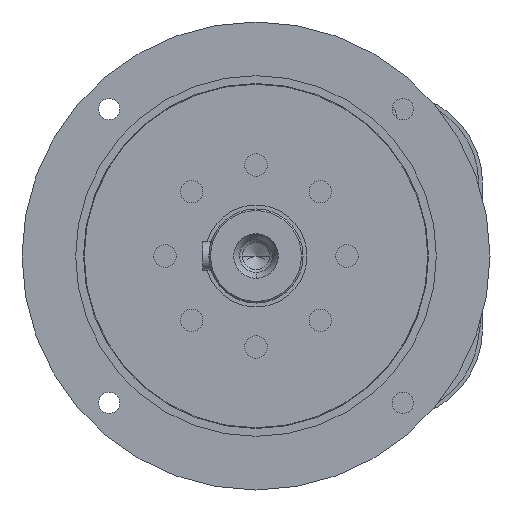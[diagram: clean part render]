
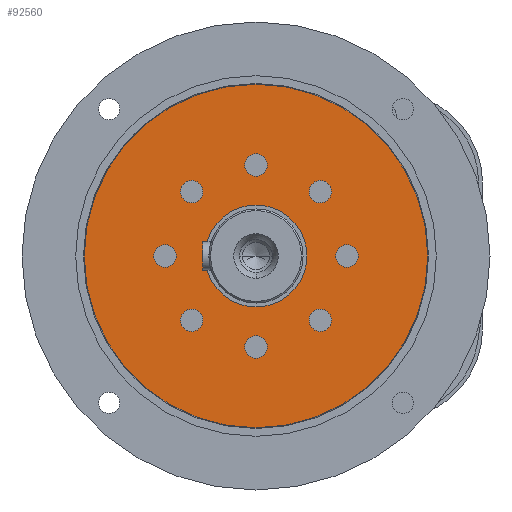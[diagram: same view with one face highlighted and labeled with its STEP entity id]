
A CAD part, left-side view. The second image highlights one B-rep face of the part: STEP entity #92560.
In plain terms, the highlighted planar face has unit normal (-1, 0, 0).
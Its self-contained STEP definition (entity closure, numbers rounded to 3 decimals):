
#91120=CARTESIAN_POINT('',(4.5,107.521,0.));
#91130=DIRECTION('',(-1.,0.,0.));
#91140=DIRECTION('',(0.,1.,0.));
#91150=AXIS2_PLACEMENT_3D('',#91120,#91130,#91140);
#91160=PLANE('',#91150);
#91170=CARTESIAN_POINT('',(4.5,0.,0.));
#91180=DIRECTION('',(-1.,0.,0.));
#91190=DIRECTION('',(0.,0.,-1.));
#91200=AXIS2_PLACEMENT_3D('',#91170,#91180,#91190);
#91210=CIRCLE('',#91200,109.555);
#91220=CARTESIAN_POINT('',(4.5,0.,-109.555));
#91230=VERTEX_POINT('',#91220);
#91240=CARTESIAN_POINT('',(4.5,0.,109.555));
#91250=VERTEX_POINT('',#91240);
#91260=EDGE_CURVE('',#91230,#91250,#91210,.T.);
#91270=ORIENTED_EDGE('',*,*,#91260,.T.);
#91280=CARTESIAN_POINT('',(4.5,109.555,0.));
#91290=VERTEX_POINT('',#91280);
#91300=EDGE_CURVE('',#91290,#91230,#91210,.T.);
#91310=ORIENTED_EDGE('',*,*,#91300,.T.);
#91320=EDGE_CURVE('',#91250,#91290,#91210,.T.);
#91330=ORIENTED_EDGE('',*,*,#91320,.T.);
#91340=EDGE_LOOP('',(#91330,#91310,#91270));
#91350=FACE_OUTER_BOUND('',#91340,.T.);
#91360=CARTESIAN_POINT('',(4.5,-41.012,-41.012));
#91370=DIRECTION('',(-1.,0.,0.));
#91380=DIRECTION('',(0.,-1.,0.));
#91390=AXIS2_PLACEMENT_3D('',#91360,#91370,#91380);
#91400=CIRCLE('',#91390,7.19);
#91410=CARTESIAN_POINT('',(4.5,-48.202,-41.012));
#91420=VERTEX_POINT('',#91410);
#91430=CARTESIAN_POINT('',(4.5,-33.822,-41.012));
#91440=VERTEX_POINT('',#91430);
#91450=EDGE_CURVE('',#91420,#91440,#91400,.T.);
#91460=ORIENTED_EDGE('',*,*,#91450,.F.);
#91470=EDGE_CURVE('',#91440,#91420,#91400,.T.);
#91480=ORIENTED_EDGE('',*,*,#91470,.F.);
#91490=EDGE_LOOP('',(#91480,#91460));
#91500=FACE_BOUND('',#91490,.T.);
#91510=CARTESIAN_POINT('',(4.5,58.,0.));
#91520=DIRECTION('',(-1.,0.,0.));
#91530=DIRECTION('',(0.,-1.,0.));
#91540=AXIS2_PLACEMENT_3D('',#91510,#91520,#91530);
#91550=CIRCLE('',#91540,7.19);
#91560=CARTESIAN_POINT('',(4.5,50.81,0.));
#91570=VERTEX_POINT('',#91560);
#91580=CARTESIAN_POINT('',(4.5,65.19,0.));
#91590=VERTEX_POINT('',#91580);
#91600=EDGE_CURVE('',#91570,#91590,#91550,.T.);
#91610=ORIENTED_EDGE('',*,*,#91600,.F.);
#91620=EDGE_CURVE('',#91590,#91570,#91550,.T.);
#91630=ORIENTED_EDGE('',*,*,#91620,.F.);
#91640=EDGE_LOOP('',(#91630,#91610));
#91650=FACE_BOUND('',#91640,.T.);
#91660=CARTESIAN_POINT('',(4.5,41.012,41.012));
#91670=DIRECTION('',(-1.,0.,0.));
#91680=DIRECTION('',(0.,-1.,0.));
#91690=AXIS2_PLACEMENT_3D('',#91660,#91670,#91680);
#91700=CIRCLE('',#91690,7.19);
#91710=CARTESIAN_POINT('',(4.5,33.822,41.012));
#91720=VERTEX_POINT('',#91710);
#91730=CARTESIAN_POINT('',(4.5,48.202,41.012));
#91740=VERTEX_POINT('',#91730);
#91750=EDGE_CURVE('',#91720,#91740,#91700,.T.);
#91760=ORIENTED_EDGE('',*,*,#91750,.F.);
#91770=EDGE_CURVE('',#91740,#91720,#91700,.T.);
#91780=ORIENTED_EDGE('',*,*,#91770,.F.);
#91790=EDGE_LOOP('',(#91780,#91760));
#91800=FACE_BOUND('',#91790,.T.);
#91810=CARTESIAN_POINT('',(4.5,0.,58.));
#91820=DIRECTION('',(-1.,0.,0.));
#91830=DIRECTION('',(0.,-1.,0.));
#91840=AXIS2_PLACEMENT_3D('',#91810,#91820,#91830);
#91850=CIRCLE('',#91840,7.19);
#91860=CARTESIAN_POINT('',(4.5,-7.19,58.));
#91870=VERTEX_POINT('',#91860);
#91880=CARTESIAN_POINT('',(4.5,7.19,58.));
#91890=VERTEX_POINT('',#91880);
#91900=EDGE_CURVE('',#91870,#91890,#91850,.T.);
#91910=ORIENTED_EDGE('',*,*,#91900,.F.);
#91920=EDGE_CURVE('',#91890,#91870,#91850,.T.);
#91930=ORIENTED_EDGE('',*,*,#91920,.F.);
#91940=EDGE_LOOP('',(#91930,#91910));
#91950=FACE_BOUND('',#91940,.T.);
#91960=CARTESIAN_POINT('',(4.5,41.012,-41.012));
#91970=DIRECTION('',(-1.,0.,0.));
#91980=DIRECTION('',(0.,-1.,0.));
#91990=AXIS2_PLACEMENT_3D('',#91960,#91970,#91980);
#92000=CIRCLE('',#91990,7.19);
#92010=CARTESIAN_POINT('',(4.5,33.822,-41.012));
#92020=VERTEX_POINT('',#92010);
#92030=CARTESIAN_POINT('',(4.5,48.202,-41.012));
#92040=VERTEX_POINT('',#92030);
#92050=EDGE_CURVE('',#92020,#92040,#92000,.T.);
#92060=ORIENTED_EDGE('',*,*,#92050,.F.);
#92070=EDGE_CURVE('',#92040,#92020,#92000,.T.);
#92080=ORIENTED_EDGE('',*,*,#92070,.F.);
#92090=EDGE_LOOP('',(#92080,#92060));
#92100=FACE_BOUND('',#92090,.T.);
#92110=CARTESIAN_POINT('',(4.5,-41.012,41.012));
#92120=DIRECTION('',(-1.,0.,0.));
#92130=DIRECTION('',(0.,-1.,0.));
#92140=AXIS2_PLACEMENT_3D('',#92110,#92120,#92130);
#92150=CIRCLE('',#92140,7.19);
#92160=CARTESIAN_POINT('',(4.5,-48.202,41.012));
#92170=VERTEX_POINT('',#92160);
#92180=CARTESIAN_POINT('',(4.5,-33.822,41.012));
#92190=VERTEX_POINT('',#92180);
#92200=EDGE_CURVE('',#92170,#92190,#92150,.T.);
#92210=ORIENTED_EDGE('',*,*,#92200,.F.);
#92220=EDGE_CURVE('',#92190,#92170,#92150,.T.);
#92230=ORIENTED_EDGE('',*,*,#92220,.F.);
#92240=EDGE_LOOP('',(#92230,#92210));
#92250=FACE_BOUND('',#92240,.T.);
#92260=CARTESIAN_POINT('',(4.5,0.,-58.));
#92270=DIRECTION('',(-1.,0.,0.));
#92280=DIRECTION('',(0.,-1.,0.));
#92290=AXIS2_PLACEMENT_3D('',#92260,#92270,#92280);
#92300=CIRCLE('',#92290,7.19);
#92310=CARTESIAN_POINT('',(4.5,-7.19,-58.));
#92320=VERTEX_POINT('',#92310);
#92330=CARTESIAN_POINT('',(4.5,7.19,-58.));
#92340=VERTEX_POINT('',#92330);
#92350=EDGE_CURVE('',#92320,#92340,#92300,.T.);
#92360=ORIENTED_EDGE('',*,*,#92350,.F.);
#92370=EDGE_CURVE('',#92340,#92320,#92300,.T.);
#92380=ORIENTED_EDGE('',*,*,#92370,.F.);
#92390=EDGE_LOOP('',(#92380,#92360));
#92400=FACE_BOUND('',#92390,.T.);
#92410=CARTESIAN_POINT('',(4.5,-58.,0.));
#92420=DIRECTION('',(-1.,0.,0.));
#92430=DIRECTION('',(0.,-1.,0.));
#92440=AXIS2_PLACEMENT_3D('',#92410,#92420,#92430);
#92450=CIRCLE('',#92440,7.19);
#92460=CARTESIAN_POINT('',(4.5,-65.19,0.));
#92470=VERTEX_POINT('',#92460);
#92480=CARTESIAN_POINT('',(4.5,-50.81,0.));
#92490=VERTEX_POINT('',#92480);
#92500=EDGE_CURVE('',#92470,#92490,#92450,.T.);
#92510=ORIENTED_EDGE('',*,*,#92500,.F.);
#92520=EDGE_CURVE('',#92490,#92470,#92450,.T.);
#92530=ORIENTED_EDGE('',*,*,#92520,.F.);
#92540=EDGE_LOOP('',(#92530,#92510));
#92550=FACE_BOUND('',#92540,.T.);
#92560=ADVANCED_FACE('',(#91350,#91500,#91650,#91800,#91950,#92100,#92250,#92400,#92550),#91160,.T.);
